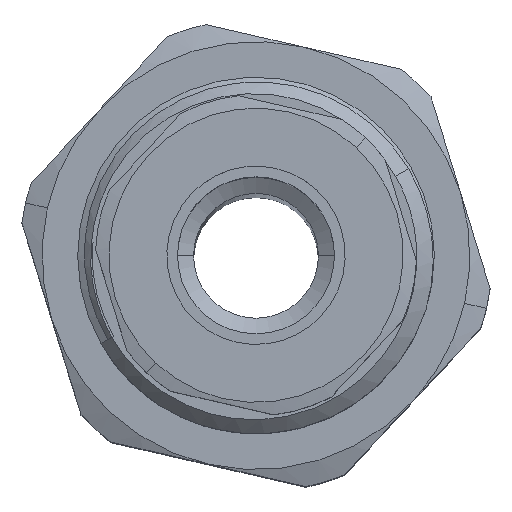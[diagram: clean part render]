
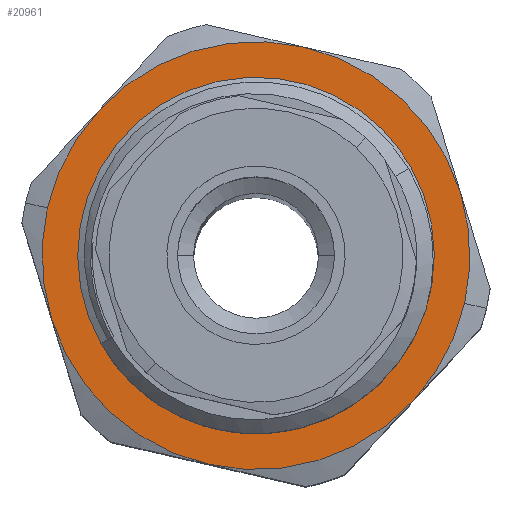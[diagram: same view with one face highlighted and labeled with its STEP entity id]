
A CAD part, top view. The second image highlights one B-rep face of the part: STEP entity #20961.
In plain terms, the highlighted planar face has unit normal (0, 0, 1).
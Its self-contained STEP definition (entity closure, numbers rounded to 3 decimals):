
#197 = CIRCLE ( 'NONE', #9877, 12. ) ;
#655 = DIRECTION ( 'NONE',  ( 0., 0., -1. ) ) ;
#778 = CARTESIAN_POINT ( 'NONE',  ( 10.392, -6., 5. ) ) ;
#1109 = CARTESIAN_POINT ( 'NONE',  ( 0., 0., 5. ) ) ;
#1229 = AXIS2_PLACEMENT_3D ( 'NONE', #16812, #5850, #18640 ) ;
#1816 = EDGE_CURVE ( 'NONE', #3832, #8997, #6402, .T. ) ;
#2365 = ORIENTED_EDGE ( 'NONE', *, *, #12755, .F. ) ;
#2455 = DIRECTION ( 'NONE',  ( 0., 0., -1. ) ) ;
#2522 = AXIS2_PLACEMENT_3D ( 'NONE', #5639, #10778, #5415 ) ;
#2640 = ORIENTED_EDGE ( 'NONE', *, *, #9520, .F. ) ;
#2864 = VERTEX_POINT ( 'NONE', #8460 ) ;
#2957 = DIRECTION ( 'NONE',  ( -1., 0., 0. ) ) ;
#2962 = VERTEX_POINT ( 'NONE', #778 ) ;
#3010 = DIRECTION ( 'NONE',  ( 1., 0., 0. ) ) ;
#3274 = EDGE_CURVE ( 'NONE', #2962, #20881, #13575, .T. ) ;
#3586 = DIRECTION ( 'NONE',  ( 0., 0., -1. ) ) ;
#3832 = VERTEX_POINT ( 'NONE', #19434 ) ;
#3841 = DIRECTION ( 'NONE',  ( 0., 0., -1. ) ) ;
#4508 = DIRECTION ( 'NONE',  ( 0., 0., -1. ) ) ;
#5223 = EDGE_LOOP ( 'NONE', ( #15856, #2640, #17901, #12726, #16152, #2365, #11811, #8680 ) ) ;
#5415 = DIRECTION ( 'NONE',  ( -1., 0., 0. ) ) ;
#5639 = CARTESIAN_POINT ( 'NONE',  ( 0., 0., 5. ) ) ;
#5850 = DIRECTION ( 'NONE',  ( 0., 0., -1. ) ) ;
#6154 = CIRCLE ( 'NONE', #20137, 12. ) ;
#6402 = CIRCLE ( 'NONE', #2522, 12. ) ;
#7191 = CARTESIAN_POINT ( 'NONE',  ( 10.392, 6., 5. ) ) ;
#7290 = CIRCLE ( 'NONE', #10349, 12. ) ;
#7534 = VERTEX_POINT ( 'NONE', #7191 ) ;
#7590 = CARTESIAN_POINT ( 'NONE',  ( -10.392, -6., 5. ) ) ;
#7851 = DIRECTION ( 'NONE',  ( 0., 0., -1. ) ) ;
#8208 = AXIS2_PLACEMENT_3D ( 'NONE', #12420, #2455, #11745 ) ;
#8316 = FACE_OUTER_BOUND ( 'NONE', #5223, .T. ) ;
#8460 = CARTESIAN_POINT ( 'NONE',  ( 9.25, 0., 5. ) ) ;
#8481 = CARTESIAN_POINT ( 'NONE',  ( 0., 12., 5. ) ) ;
#8680 = ORIENTED_EDGE ( 'NONE', *, *, #15303, .F. ) ;
#8857 = CARTESIAN_POINT ( 'NONE',  ( -12., 0., 5. ) ) ;
#8997 = VERTEX_POINT ( 'NONE', #8481 ) ;
#9203 = VERTEX_POINT ( 'NONE', #21331 ) ;
#9429 = DIRECTION ( 'NONE',  ( 0., 0., -1. ) ) ;
#9520 = EDGE_CURVE ( 'NONE', #18929, #2962, #197, .T. ) ;
#9877 = AXIS2_PLACEMENT_3D ( 'NONE', #10105, #3586, #18717 ) ;
#10105 = CARTESIAN_POINT ( 'NONE',  ( 0., 0., 5. ) ) ;
#10163 = EDGE_CURVE ( 'NONE', #2864, #9203, #15704, .T. ) ;
#10349 = AXIS2_PLACEMENT_3D ( 'NONE', #18807, #7851, #20637 ) ;
#10417 = AXIS2_PLACEMENT_3D ( 'NONE', #1109, #13945, #2957 ) ;
#10694 = CARTESIAN_POINT ( 'NONE',  ( 0., 0., 5. ) ) ;
#10778 = DIRECTION ( 'NONE',  ( 0., 0., -1. ) ) ;
#11617 = CARTESIAN_POINT ( 'NONE',  ( 0., 0., 5. ) ) ;
#11629 = CIRCLE ( 'NONE', #15078, 12. ) ;
#11745 = DIRECTION ( 'NONE',  ( -1., 0., 0. ) ) ;
#11811 = ORIENTED_EDGE ( 'NONE', *, *, #21858, .F. ) ;
#12420 = CARTESIAN_POINT ( 'NONE',  ( 0., 0., 5. ) ) ;
#12726 = ORIENTED_EDGE ( 'NONE', *, *, #22131, .F. ) ;
#12755 = EDGE_CURVE ( 'NONE', #20102, #3832, #11629, .T. ) ;
#13471 = DIRECTION ( 'NONE',  ( 1., 0., 0. ) ) ;
#13575 = CIRCLE ( 'NONE', #18093, 12. ) ;
#13918 = CARTESIAN_POINT ( 'NONE',  ( 0., -12., 5. ) ) ;
#13945 = DIRECTION ( 'NONE',  ( 0., 0., -1. ) ) ;
#13993 = DIRECTION ( 'NONE',  ( 0., 0., 1. ) ) ;
#14807 = CARTESIAN_POINT ( 'NONE',  ( 0., 0., 5. ) ) ;
#15078 = AXIS2_PLACEMENT_3D ( 'NONE', #11617, #655, #13471 ) ;
#15303 = EDGE_CURVE ( 'NONE', #20881, #21836, #7290, .T. ) ;
#15483 = CARTESIAN_POINT ( 'NONE',  ( 0., 0., 5. ) ) ;
#15509 = EDGE_CURVE ( 'NONE', #7534, #18929, #6154, .T. ) ;
#15704 = CIRCLE ( 'NONE', #8208, 9.25 ) ;
#15856 = ORIENTED_EDGE ( 'NONE', *, *, #3274, .F. ) ;
#16152 = ORIENTED_EDGE ( 'NONE', *, *, #1816, .F. ) ;
#16628 = DIRECTION ( 'NONE',  ( 1., 0., 0. ) ) ;
#16812 = CARTESIAN_POINT ( 'NONE',  ( 0., 0., 5. ) ) ;
#16835 = AXIS2_PLACEMENT_3D ( 'NONE', #17406, #13993, #3010 ) ;
#17143 = ORIENTED_EDGE ( 'NONE', *, *, #10163, .T. ) ;
#17167 = CIRCLE ( 'NONE', #19627, 12. ) ;
#17306 = DIRECTION ( 'NONE',  ( 1., 0., 0. ) ) ;
#17406 = CARTESIAN_POINT ( 'NONE',  ( 0., 0., 5. ) ) ;
#17901 = ORIENTED_EDGE ( 'NONE', *, *, #15509, .F. ) ;
#18071 = FACE_BOUND ( 'NONE', #22147, .T. ) ;
#18093 = AXIS2_PLACEMENT_3D ( 'NONE', #10694, #9429, #19768 ) ;
#18640 = DIRECTION ( 'NONE',  ( 1., 0., 0. ) ) ;
#18717 = DIRECTION ( 'NONE',  ( 1., 0., 0. ) ) ;
#18807 = CARTESIAN_POINT ( 'NONE',  ( 0., 0., 5. ) ) ;
#18900 = CIRCLE ( 'NONE', #10417, 9.25 ) ;
#18929 = VERTEX_POINT ( 'NONE', #22715 ) ;
#19290 = ORIENTED_EDGE ( 'NONE', *, *, #19909, .T. ) ;
#19434 = CARTESIAN_POINT ( 'NONE',  ( -10.392, 6., 5. ) ) ;
#19627 = AXIS2_PLACEMENT_3D ( 'NONE', #14807, #3841, #16628 ) ;
#19768 = DIRECTION ( 'NONE',  ( 1., 0., 0. ) ) ;
#19909 = EDGE_CURVE ( 'NONE', #9203, #2864, #18900, .T. ) ;
#20102 = VERTEX_POINT ( 'NONE', #8857 ) ;
#20137 = AXIS2_PLACEMENT_3D ( 'NONE', #15483, #4508, #17306 ) ;
#20637 = DIRECTION ( 'NONE',  ( 1., 0., 0. ) ) ;
#20881 = VERTEX_POINT ( 'NONE', #13918 ) ;
#20961 = ADVANCED_FACE ( 'NONE', ( #18071, #8316 ), #21235, .T. ) ;
#21235 = PLANE ( 'NONE',  #16835 ) ;
#21331 = CARTESIAN_POINT ( 'NONE',  ( -9.25, 0., 5. ) ) ;
#21836 = VERTEX_POINT ( 'NONE', #7590 ) ;
#21858 = EDGE_CURVE ( 'NONE', #21836, #20102, #23199, .T. ) ;
#22131 = EDGE_CURVE ( 'NONE', #8997, #7534, #17167, .T. ) ;
#22147 = EDGE_LOOP ( 'NONE', ( #19290, #17143 ) ) ;
#22715 = CARTESIAN_POINT ( 'NONE',  ( 12., 0., 5. ) ) ;
#23199 = CIRCLE ( 'NONE', #1229, 12. ) ;
